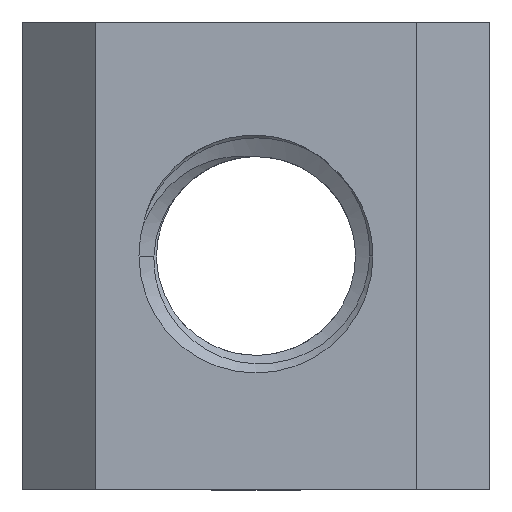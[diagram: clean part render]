
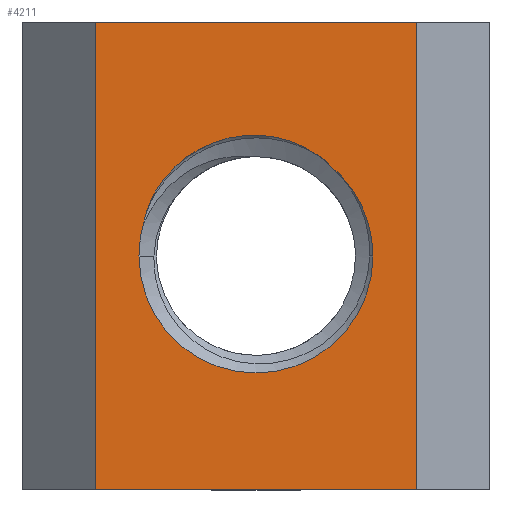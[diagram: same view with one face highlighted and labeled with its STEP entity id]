
A CAD part, front view. The second image highlights one B-rep face of the part: STEP entity #4211.
In plain terms, the highlighted planar face has unit normal (0, -1, 0).
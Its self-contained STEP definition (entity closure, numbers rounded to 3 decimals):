
#2 = EDGE_CURVE ( 'NONE', #4105, #1061, #136, .T. ) ;
#67 = VERTEX_POINT ( 'NONE', #3099 ) ;
#136 = LINE ( 'NONE', #4427, #4822 ) ;
#255 = VERTEX_POINT ( 'NONE', #6686 ) ;
#364 = ORIENTED_EDGE ( 'NONE', *, *, #4751, .T. ) ;
#456 = FACE_OUTER_BOUND ( 'NONE', #2986, .T. ) ;
#497 = DIRECTION ( 'NONE',  ( 0., 1., 0. ) ) ;
#580 = CARTESIAN_POINT ( 'NONE',  ( -3.742, 0., 1.521 ) ) ;
#677 = ORIENTED_EDGE ( 'NONE', *, *, #738, .F. ) ;
#738 = EDGE_CURVE ( 'NONE', #4711, #6306, #2136, .T. ) ;
#784 = EDGE_CURVE ( 'NONE', #6306, #4245, #3969, .T. ) ;
#879 = CARTESIAN_POINT ( 'NONE',  ( -3.85, 0., 1.086 ) ) ;
#903 = CARTESIAN_POINT ( 'NONE',  ( 2.362, 0., 3.248 ) ) ;
#991 = CARTESIAN_POINT ( 'NONE',  ( -3.522, 0., 2.081 ) ) ;
#1061 = VERTEX_POINT ( 'NONE', #5223 ) ;
#1309 = DIRECTION ( 'NONE',  ( 0., 1., 0. ) ) ;
#1379 = DIRECTION ( 'NONE',  ( 1., 0., 0. ) ) ;
#1431 = CARTESIAN_POINT ( 'NONE',  ( 2.121, 0., 3.437 ) ) ;
#1483 = CARTESIAN_POINT ( 'NONE',  ( -3.011, 0., 2.805 ) ) ;
#1593 = CARTESIAN_POINT ( 'NONE',  ( -2.353, 0., 3.409 ) ) ;
#1800 = DIRECTION ( 'NONE',  ( 0., 0., -1. ) ) ;
#1820 = PLANE ( 'NONE',  #7616 ) ;
#1853 = EDGE_CURVE ( 'NONE', #1061, #7348, #7237, .T. ) ;
#1928 = ORIENTED_EDGE ( 'NONE', *, *, #784, .F. ) ;
#2028 = B_SPLINE_CURVE_WITH_KNOTS ( 'NONE', 3,
 ( #6347, #903, #5748, #1431 ),
 .UNSPECIFIED., .F., .F.,
 ( 4, 4 ),
 ( 0.007, 0.008 ),
 .UNSPECIFIED. ) ;
#2136 = B_SPLINE_CURVE_WITH_KNOTS ( 'NONE', 3,
 ( #7643, #3392, #5244, #4604, #4567, #3434, #6363, #2829, #4644, #6969, #7007, #5878, #2151, #1593, #7681, #3968, #1483, #4005, #7043, #991, #5133, #2711 ),
 .UNSPECIFIED., .F., .F.,
 ( 4, 2, 2, 2, 2, 2, 2, 2, 2, 2, 4 ),
 ( 0., 0.001, 0.001, 0.002, 0.003, 0.004, 0.005, 0.005, 0.006, 0.006, 0.007 ),
 .UNSPECIFIED. ) ;
#2149 = ORIENTED_EDGE ( 'NONE', *, *, #6656, .T. ) ;
#2151 = CARTESIAN_POINT ( 'NONE',  ( -1.844, 0., 3.716 ) ) ;
#2302 = CARTESIAN_POINT ( 'NONE',  ( 5.5, 0., 8. ) ) ;
#2391 = EDGE_CURVE ( 'NONE', #67, #6914, #3833, .T. ) ;
#2483 = CARTESIAN_POINT ( 'NONE',  ( 2.121, 0., 3.437 ) ) ;
#2614 = ORIENTED_EDGE ( 'NONE', *, *, #7542, .T. ) ;
#2711 = CARTESIAN_POINT ( 'NONE',  ( -3.742, 0., 1.521 ) ) ;
#2829 = CARTESIAN_POINT ( 'NONE',  ( 0.179, 0., 4.134 ) ) ;
#2858 = DIRECTION ( 'NONE',  ( 0., 0., 1. ) ) ;
#2897 = FACE_BOUND ( 'NONE', #3868, .T. ) ;
#2936 = CARTESIAN_POINT ( 'NONE',  ( -5.5, 0., 8. ) ) ;
#2986 = EDGE_LOOP ( 'NONE', ( #2614, #7485, #4302, #364 ) ) ;
#3099 = CARTESIAN_POINT ( 'NONE',  ( 2.473, 0., 3.144 ) ) ;
#3124 = CARTESIAN_POINT ( 'NONE',  ( -5.5, 0., 8. ) ) ;
#3151 = DIRECTION ( 'NONE',  ( 0., 0., 1. ) ) ;
#3392 = CARTESIAN_POINT ( 'NONE',  ( 1.88, 0., 3.617 ) ) ;
#3408 = DIRECTION ( 'NONE',  ( 0., 0., 1. ) ) ;
#3425 = CIRCLE ( 'NONE', #7904, 4. ) ;
#3434 = CARTESIAN_POINT ( 'NONE',  ( 0.771, 0., 4.043 ) ) ;
#3456 = ORIENTED_EDGE ( 'NONE', *, *, #2391, .T. ) ;
#3517 = EDGE_CURVE ( 'NONE', #7097, #4245, #3425, .T. ) ;
#3523 = VECTOR ( 'NONE', #1800, 1000. ) ;
#3571 = CARTESIAN_POINT ( 'NONE',  ( 4., 0., 0. ) ) ;
#3631 = CARTESIAN_POINT ( 'NONE',  ( 0., 0., 0. ) ) ;
#3833 = CIRCLE ( 'NONE', #7916, 4. ) ;
#3868 = EDGE_LOOP ( 'NONE', ( #1928, #677, #6360, #3456, #2149, #6943 ) ) ;
#3968 = CARTESIAN_POINT ( 'NONE',  ( -2.909, 0., 2.916 ) ) ;
#3969 = B_SPLINE_CURVE_WITH_KNOTS ( 'NONE', 3,
 ( #4084, #5169, #5915, #879 ),
 .UNSPECIFIED., .F., .F.,
 ( 4, 4 ),
 ( 0., 0. ),
 .UNSPECIFIED. ) ;
#4005 = CARTESIAN_POINT ( 'NONE',  ( -3.198, 0., 2.575 ) ) ;
#4034 = CARTESIAN_POINT ( 'NONE',  ( 0., 0., 0. ) ) ;
#4084 = CARTESIAN_POINT ( 'NONE',  ( -3.742, 0., 1.521 ) ) ;
#4105 = VERTEX_POINT ( 'NONE', #7356 ) ;
#4211 = ADVANCED_FACE ( 'NONE', ( #456, #2897 ), #1820, .F. ) ;
#4245 = VERTEX_POINT ( 'NONE', #4271 ) ;
#4271 = CARTESIAN_POINT ( 'NONE',  ( -3.85, 0., 1.086 ) ) ;
#4302 = ORIENTED_EDGE ( 'NONE', *, *, #2, .F. ) ;
#4399 = AXIS2_PLACEMENT_3D ( 'NONE', #7134, #7734, #3408 ) ;
#4427 = CARTESIAN_POINT ( 'NONE',  ( -5.5, 0., 8. ) ) ;
#4567 = CARTESIAN_POINT ( 'NONE',  ( 1.058, 0., 3.968 ) ) ;
#4604 = CARTESIAN_POINT ( 'NONE',  ( 1.199, 0., 3.922 ) ) ;
#4644 = CARTESIAN_POINT ( 'NONE',  ( -0.117, 0., 4.14 ) ) ;
#4711 = VERTEX_POINT ( 'NONE', #2483 ) ;
#4751 = EDGE_CURVE ( 'NONE', #4105, #255, #5492, .T. ) ;
#4822 = VECTOR ( 'NONE', #1379, 1000. ) ;
#4963 = CARTESIAN_POINT ( 'NONE',  ( -5.5, 0., -8. ) ) ;
#5046 = CIRCLE ( 'NONE', #4399, 4. ) ;
#5133 = CARTESIAN_POINT ( 'NONE',  ( -3.653, 0., 1.809 ) ) ;
#5163 = CARTESIAN_POINT ( 'NONE',  ( -4., 0., 0. ) ) ;
#5169 = CARTESIAN_POINT ( 'NONE',  ( -3.786, 0., 1.377 ) ) ;
#5223 = CARTESIAN_POINT ( 'NONE',  ( 5.5, 0., 8. ) ) ;
#5243 = DIRECTION ( 'NONE',  ( 0., 0., -1. ) ) ;
#5244 = CARTESIAN_POINT ( 'NONE',  ( 1.613, 0., 3.759 ) ) ;
#5492 = LINE ( 'NONE', #3124, #3523 ) ;
#5637 = LINE ( 'NONE', #4963, #7670 ) ;
#5748 = CARTESIAN_POINT ( 'NONE',  ( 2.245, 0., 3.346 ) ) ;
#5872 = CARTESIAN_POINT ( 'NONE',  ( 5.5, 0., -8. ) ) ;
#5878 = CARTESIAN_POINT ( 'NONE',  ( -1.569, 0., 3.842 ) ) ;
#5915 = CARTESIAN_POINT ( 'NONE',  ( -3.822, 0., 1.232 ) ) ;
#6306 = VERTEX_POINT ( 'NONE', #580 ) ;
#6347 = CARTESIAN_POINT ( 'NONE',  ( 2.473, 0., 3.144 ) ) ;
#6360 = ORIENTED_EDGE ( 'NONE', *, *, #6803, .F. ) ;
#6363 = CARTESIAN_POINT ( 'NONE',  ( 0.623, 0., 4.072 ) ) ;
#6495 = VECTOR ( 'NONE', #5243, 1000. ) ;
#6656 = EDGE_CURVE ( 'NONE', #6914, #7097, #5046, .T. ) ;
#6668 = DIRECTION ( 'NONE',  ( 0., 0., 1. ) ) ;
#6686 = CARTESIAN_POINT ( 'NONE',  ( -5.5, 0., -8. ) ) ;
#6752 = DIRECTION ( 'NONE',  ( 1., 0., 0. ) ) ;
#6803 = EDGE_CURVE ( 'NONE', #67, #4711, #2028, .T. ) ;
#6914 = VERTEX_POINT ( 'NONE', #3571 ) ;
#6943 = ORIENTED_EDGE ( 'NONE', *, *, #3517, .T. ) ;
#6969 = CARTESIAN_POINT ( 'NONE',  ( -0.712, 0., 4.087 ) ) ;
#7007 = CARTESIAN_POINT ( 'NONE',  ( -1.006, 0., 4.026 ) ) ;
#7043 = CARTESIAN_POINT ( 'NONE',  ( -3.285, 0., 2.455 ) ) ;
#7097 = VERTEX_POINT ( 'NONE', #5163 ) ;
#7111 = DIRECTION ( 'NONE',  ( 0., 1., 0. ) ) ;
#7134 = CARTESIAN_POINT ( 'NONE',  ( 0., 0., 0. ) ) ;
#7237 = LINE ( 'NONE', #2302, #6495 ) ;
#7348 = VERTEX_POINT ( 'NONE', #5872 ) ;
#7356 = CARTESIAN_POINT ( 'NONE',  ( -5.5, 0., 8. ) ) ;
#7485 = ORIENTED_EDGE ( 'NONE', *, *, #1853, .F. ) ;
#7542 = EDGE_CURVE ( 'NONE', #255, #7348, #5637, .T. ) ;
#7616 = AXIS2_PLACEMENT_3D ( 'NONE', #2936, #497, #6668 ) ;
#7643 = CARTESIAN_POINT ( 'NONE',  ( 2.121, 0., 3.437 ) ) ;
#7670 = VECTOR ( 'NONE', #6752, 1000. ) ;
#7681 = CARTESIAN_POINT ( 'NONE',  ( -2.587, 0., 3.228 ) ) ;
#7734 = DIRECTION ( 'NONE',  ( 0., 1., 0. ) ) ;
#7904 = AXIS2_PLACEMENT_3D ( 'NONE', #4034, #7111, #2858 ) ;
#7916 = AXIS2_PLACEMENT_3D ( 'NONE', #3631, #1309, #3151 ) ;
